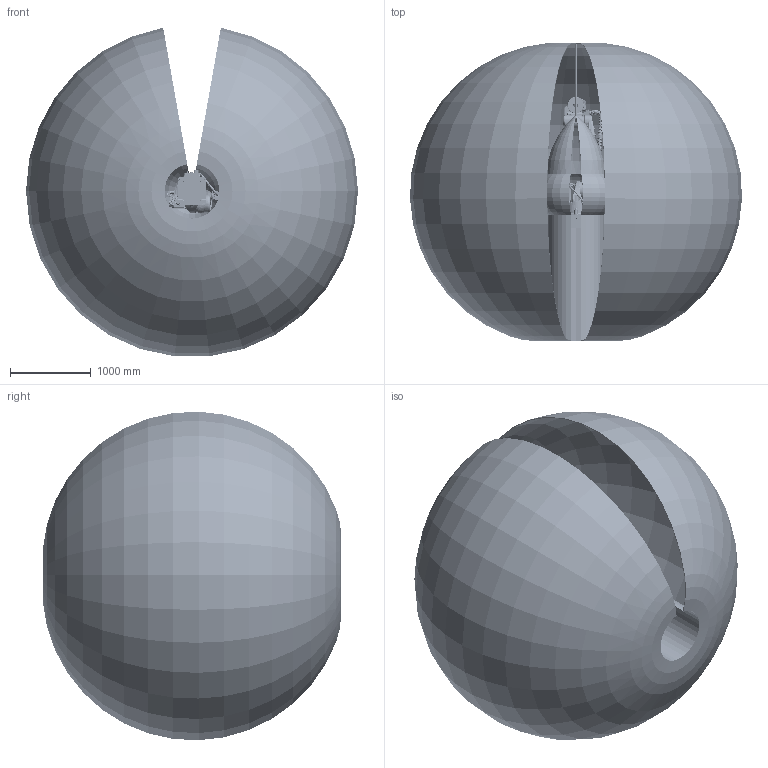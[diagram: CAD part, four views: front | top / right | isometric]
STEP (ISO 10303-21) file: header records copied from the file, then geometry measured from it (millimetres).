
FILE_DESCRIPTION (( 'STEP AP214' ), '1' );
FILE_NAME ('ER12H-2000杅耀(漪婦釐)-20230912.STEP', '2023-10-08T11:48:48', ( '' ), ( '' ), 'SwSTEP 2.0', 'SolidWorks 2021', '' );
FILE_SCHEMA (( 'AUTOMOTIVE_DESIGN' ));
Length unit declared in the file: millimetre
Products named in the file (9): 苤旋^ER12H-2000杅耀(漪婦釐)-20230912; 复件 底座^ER12H-2000数模(含包络)-20230912; 湮旋^ER12H-2000杅耀(漪婦釐)-20230912; 蛌釱^ER12H-2000杅耀(漪婦釐)-20230912; ER12H-2000运动空间^ER12H-2000数模(含包络)-20230912; ER12H-2000杅耀(漪婦釐)-20230912; 忒勂^ER12H-2000杅耀(漪婦釐)-20230912; 末端法兰^ER12H-2000数模(含包络)-20230912; 电机座^ER12H-2000数模(含包络)-20230912
Assembly tree (8 placements, depth 2):
  ER12H-2000杅耀(漪婦釐)-20230912
    复件 底座^ER12H-2000数模(含包络)-20230912
    蛌釱^ER12H-2000杅耀(漪婦釐)-20230912
    湮旋^ER12H-2000杅耀(漪婦釐)-20230912
    电机座^ER12H-2000数模(含包络)-20230912
    苤旋^ER12H-2000杅耀(漪婦釐)-20230912
    忒勂^ER12H-2000杅耀(漪婦釐)-20230912
    末端法兰^ER12H-2000数模(含包络)-20230912
    ER12H-2000运动空间^ER12H-2000数模(含包络)-20230912
Bounding box: 4119.63 x 3704.67 x 4077.05 mm (x, y, z)
Volume: 580976479.6 mm3; surface area: 112559200.6 mm2
Topology: 38 solids, 77 shells, 8284 faces, 20197 edges, 12211 vertices
Faces by surface type: cylinder 2603, bspline 2282, plane 2273, torus 673, cone 382, sphere 71
Entity records: 475289 total; most frequent: CARTESIAN_POINT 229794, ORIENTED_EDGE 39861, DIRECTION 33785, EDGE_CURVE 19950, AXIS2_PLACEMENT_3D 13515, VERTEX_POINT 12197, EDGE_LOOP 8892, FACE_OUTER_BOUND 8284
